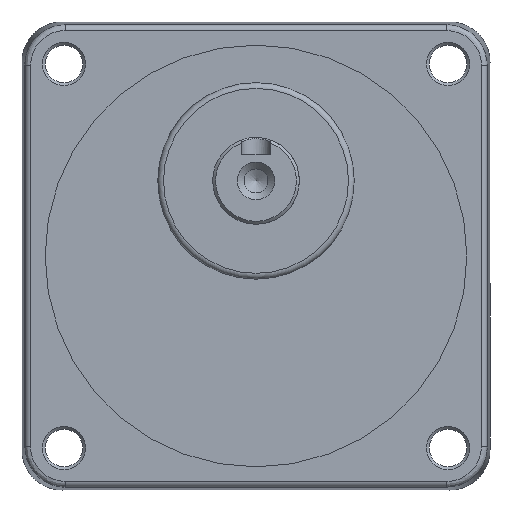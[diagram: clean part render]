
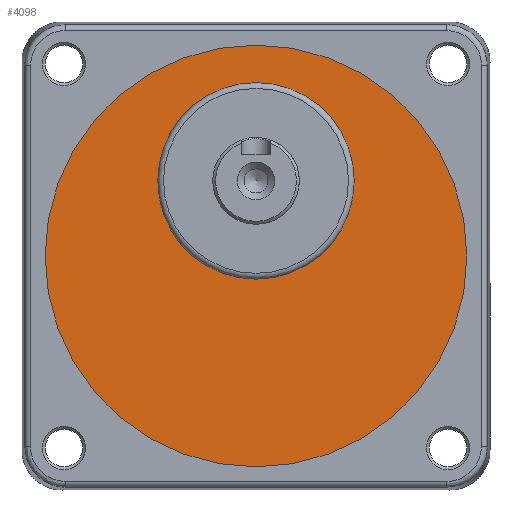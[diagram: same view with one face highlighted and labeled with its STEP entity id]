
A CAD part, front view. The second image highlights one B-rep face of the part: STEP entity #4098.
In plain terms, the highlighted planar face has unit normal (0, -1, 0).
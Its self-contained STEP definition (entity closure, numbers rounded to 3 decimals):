
#3437=CARTESIAN_POINT('',(17.0,-44.5,13.));
#3438=VERTEX_POINT('',#3437);
#3439=CARTESIAN_POINT('',(0.,-44.5,13.0));
#3440=DIRECTION('',(0.0,1.0,0.0));
#3441=DIRECTION('',(-1.0,0.0,0.0));
#3442=AXIS2_PLACEMENT_3D('',#3439,#3440,#3441);
#3443=CIRCLE('',#3442,17.0);
#3444=EDGE_CURVE('',#3438,#3438,#3443,.T.);
#4072=CARTESIAN_POINT('',(36.5,-44.5,0.));
#4073=VERTEX_POINT('',#4072);
#4074=CARTESIAN_POINT('',(0.0,-44.5,0.0));
#4075=DIRECTION('',(0.0,-1.0,0.0));
#4076=DIRECTION('',(-1.0,0.0,0.0));
#4077=AXIS2_PLACEMENT_3D('',#4074,#4075,#4076);
#4078=CIRCLE('',#4077,36.5);
#4079=EDGE_CURVE('',#4073,#4073,#4078,.T.);
#4087=CARTESIAN_POINT('',(0.0,-44.5,0.0));
#4088=DIRECTION('',(0.0,1.0,0.0));
#4089=DIRECTION('',(0.0,0.0,1.0));
#4090=AXIS2_PLACEMENT_3D('',#4087,#4088,#4089);
#4091=PLANE('',#4090);
#4092=ORIENTED_EDGE('',*,*,#4079,.T.);
#4093=EDGE_LOOP('',(#4092));
#4094=FACE_OUTER_BOUND('',#4093,.T.);
#4095=ORIENTED_EDGE('',*,*,#3444,.T.);
#4096=EDGE_LOOP('',(#4095));
#4097=FACE_BOUND('',#4096,.T.);
#4098=ADVANCED_FACE('',(#4094,#4097),#4091,.F.);
